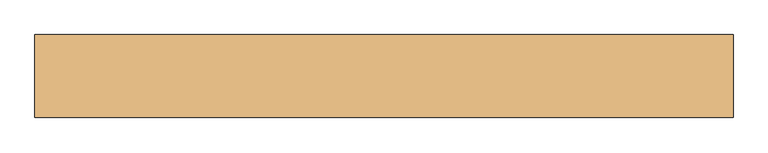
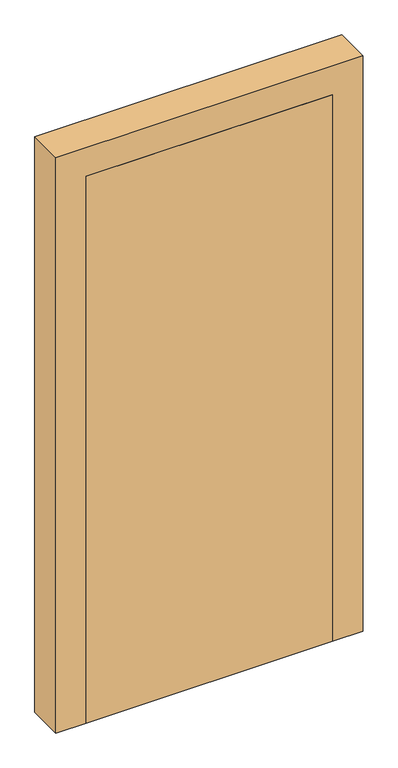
"""IFC4 building model written with IfcOpenShell, lengths in millimetres: door geometry, LOC_Enkeldörr : LOC_Enkeldörr Karm=100."""

from ifc_helpers import new_model, si_unit, frame, origin, origin_with_axes, place, context, project, spatial, polyline, outline, extrude, source, transform, mapped, element, save


def door_93c91c87(model_context):
    return source(origin(), model_context, "Body", "SweptSolid", [
        extrude(outline(polyline([(405.0, -60.0), (-405.0, -60.0), (-405.0, -20.0), (405.0, -20.0), (405.0, -60.0)])), origin_with_axes(), (0.0, 0.0, 1.0), 1900.0),
        extrude(outline(polyline([(2000.0, 505.0), (2000.0, -505.0), (0.0, -505.0), (0.0, -405.0), (1900.0, -405.0), (1900.0, 405.0), (0.0, 405.0), (0.0, 505.0), (2000.0, 505.0)])), frame((0.0, -60.0, 0.0), z_axis=(0.0, 1.0, 0.0), x_axis=(0.0, 0.0, 1.0)), (0.0, 0.0, 1.0), 120.0),
    ])


if __name__ == "__main__":
    model = new_model("IFC4")
    model_context = context("Model", 3, world=origin())
    ifc_project = project(units=[si_unit("LENGTHUNIT", "METRE", prefix="MILLI")], contexts=[model_context])
    site = spatial("IfcSite", under=ifc_project)
    building = spatial("IfcBuilding", under=site)
    placement = place(None, origin())
    door_shape = door_93c91c87(model_context)
    element("IfcDoor", 1, ObjectType="LOC_Enkeldörr : LOC_Enkeldörr Karm=100", at=placement, inside=building, context=model_context, shape_type="MappedRepresentation", body=[
        mapped(door_shape, transform((0.0, 0.0, 0.0), x_axis=(1.0, 0.0, 0.0), y_axis=(0.0, 1.0, 0.0), z_axis=(0.0, 0.0, 1.0))),
    ])
    save(model, "model.ifc")
